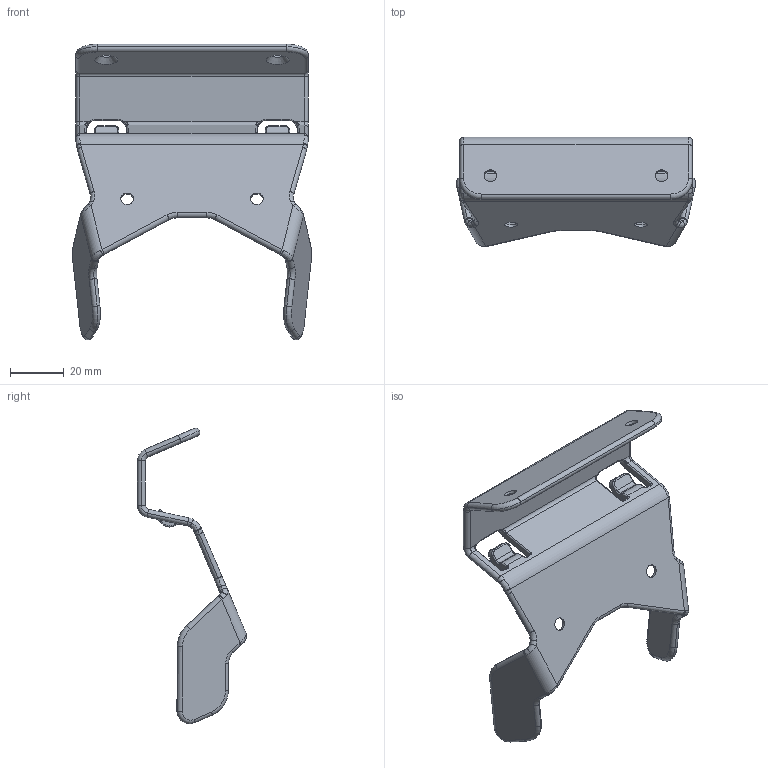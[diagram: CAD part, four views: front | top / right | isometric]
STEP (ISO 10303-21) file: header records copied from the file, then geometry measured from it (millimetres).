
FILE_DESCRIPTION (( 'STEP AP214' ), '1' );
FILE_NAME ('371-20060_Rev_06.STEP', '2020-09-09T12:55:20', ( '' ), ( '' ), 'SwSTEP 2.0', 'SolidWorks 2019', '' );
FILE_SCHEMA (( 'AUTOMOTIVE_DESIGN' ));
Length unit declared in the file: millimetre
Products named in the file (1): 371-20060_Rev_06
Bounding box: 89.33 x 40.76 x 110.46 mm (x, y, z)
Volume: 28962.8 mm3; surface area: 21268.5 mm2
Topology: 1 solids, 1 shells, 342 faces, 788 edges, 444 vertices
Faces by surface type: cylinder 134, torus 100, plane 56, bspline 48, cone 4
Full cylindrical faces by diameter (mm): 4.7 x4
Entity records: 11833 total; most frequent: CARTESIAN_POINT 4358, DIRECTION 1600, ORIENTED_EDGE 1560, EDGE_CURVE 780, AXIS2_PLACEMENT_3D 673, VERTEX_POINT 444, CIRCLE 378, EDGE_LOOP 358
